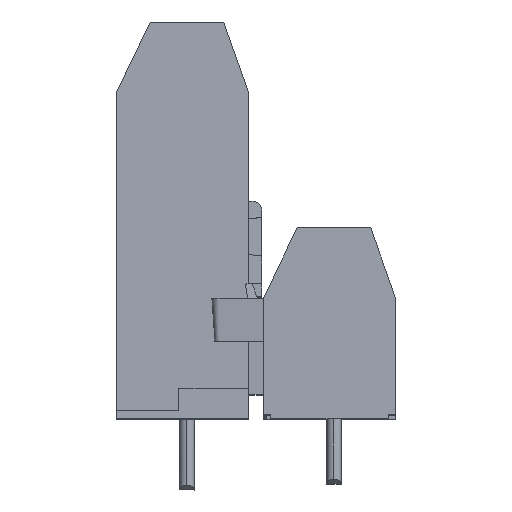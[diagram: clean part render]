
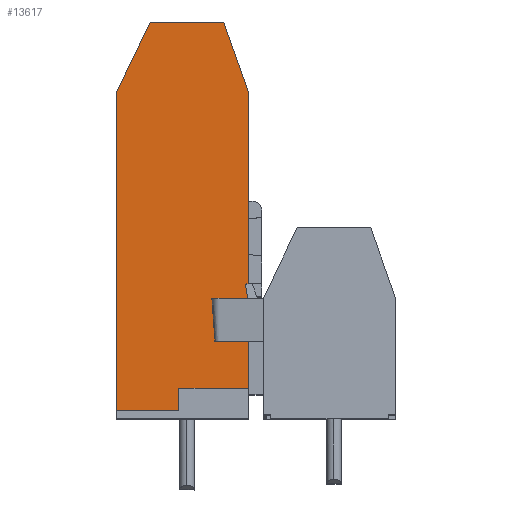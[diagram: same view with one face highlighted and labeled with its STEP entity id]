
A CAD part, top view. The second image highlights one B-rep face of the part: STEP entity #13617.
In plain terms, the highlighted planar face has unit normal (0, 0, 1).
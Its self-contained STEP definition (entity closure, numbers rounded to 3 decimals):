
#11476 = VERTEX_POINT ( 'NONE', #15899 ) ;
#11522 = EDGE_CURVE ( 'NONE', #11476, #11541, #15904, .T. ) ;
#11534 = VERTEX_POINT ( 'NONE', #15943 ) ;
#11536 = EDGE_CURVE ( 'NONE', #11534, #11476, #15940, .T. ) ;
#11541 = VERTEX_POINT ( 'NONE', #15995 ) ;
#11565 = EDGE_CURVE ( 'NONE', #11586, #11566, #16018, .T. ) ;
#11566 = VERTEX_POINT ( 'NONE', #16014 ) ;
#11576 = EDGE_CURVE ( 'NONE', #11593, #11577, #16069, .T. ) ;
#11577 = VERTEX_POINT ( 'NONE', #16062 ) ;
#11585 = EDGE_CURVE ( 'NONE', #11577, #11586, #16051, .T. ) ;
#11586 = VERTEX_POINT ( 'NONE', #16047 ) ;
#11592 = EDGE_CURVE ( 'NONE', #11541, #11593, #16104, .T. ) ;
#11593 = VERTEX_POINT ( 'NONE', #16100 ) ;
#11629 = VERTEX_POINT ( 'NONE', #16109 ) ;
#11631 = EDGE_CURVE ( 'NONE', #11629, #11534, #16107, .T. ) ;
#11892 = VERTEX_POINT ( 'NONE', #16505 ) ;
#11917 = VERTEX_POINT ( 'NONE', #16534 ) ;
#11919 = EDGE_CURVE ( 'NONE', #11917, #11892, #16532, .T. ) ;
#12460 = EDGE_CURVE ( 'NONE', #11892, #12461, #17377, .T. ) ;
#12461 = VERTEX_POINT ( 'NONE', #17376 ) ;
#12612 = VERTEX_POINT ( 'NONE', #17540 ) ;
#12669 = EDGE_CURVE ( 'NONE', #12612, #11629, #17667, .T. ) ;
#13594 = ORIENTED_EDGE ( 'NONE', *, *, #12669, .F. ) ;
#13595 = ORIENTED_EDGE ( 'NONE', *, *, #13596, .T. ) ;
#13596 = EDGE_CURVE ( 'NONE', #12612, #12461, #19308, .T. ) ;
#13597 = ORIENTED_EDGE ( 'NONE', *, *, #12460, .F. ) ;
#13598 = ORIENTED_EDGE ( 'NONE', *, *, #11919, .F. ) ;
#13599 = ORIENTED_EDGE ( 'NONE', *, *, #13600, .T. ) ;
#13600 = EDGE_CURVE ( 'NONE', #11917, #13601, #19304, .T. ) ;
#13601 = VERTEX_POINT ( 'NONE', #19358 ) ;
#13602 = ORIENTED_EDGE ( 'NONE', *, *, #13603, .T. ) ;
#13603 = EDGE_CURVE ( 'NONE', #13601, #11566, #19357, .T. ) ;
#13604 = ORIENTED_EDGE ( 'NONE', *, *, #11565, .F. ) ;
#13605 = ORIENTED_EDGE ( 'NONE', *, *, #11585, .F. ) ;
#13617 = ADVANCED_FACE ( 'NONE', ( #19334 ), #19333, .F. ) ;
#13618 = EDGE_LOOP ( 'NONE', ( #13594, #13595, #13597, #13598, #13599, #13602, #13604, #13605, #13667, #13668, #13669, #13670, #13671 ) ) ;
#13667 = ORIENTED_EDGE ( 'NONE', *, *, #11576, .F. ) ;
#13668 = ORIENTED_EDGE ( 'NONE', *, *, #11592, .F. ) ;
#13669 = ORIENTED_EDGE ( 'NONE', *, *, #11522, .F. ) ;
#13670 = ORIENTED_EDGE ( 'NONE', *, *, #11536, .F. ) ;
#13671 = ORIENTED_EDGE ( 'NONE', *, *, #11631, .F. ) ;
#14905 = CARTESIAN_POINT ( 'NONE',  ( -5.907, 8.194, -3. ) ) ;
#15670 = CARTESIAN_POINT ( 'NONE',  ( -5.855, 7.9, -3. ) ) ;
#15899 = CARTESIAN_POINT ( 'NONE',  ( -5.855, 7.9, -3. ) ) ;
#15904 = LINE ( 'NONE', #15972, #15971 ) ;
#15935 = CARTESIAN_POINT ( 'NONE',  ( -5.959, 8.488, -3. ) ) ;
#15936 = CARTESIAN_POINT ( 'NONE',  ( -6.011, 8.783, -3. ) ) ;
#15940 = B_SPLINE_CURVE_WITH_KNOTS ( 'NONE', 3,
 ( #15936, #15935, #14905, #15670 ),
 .UNSPECIFIED., .F., .F.,
 ( 4, 4 ),
 ( 0., 1. ),
 .UNSPECIFIED. ) ;
#15943 = CARTESIAN_POINT ( 'NONE',  ( -6.011, 8.783, -3. ) ) ;
#15970 = DIRECTION ( 'NONE',  ( 1., 0., 0. ) ) ;
#15971 = VECTOR ( 'NONE', #15970, 1000. ) ;
#15972 = CARTESIAN_POINT ( 'NONE',  ( -10.3, 7.9, -3. ) ) ;
#15995 = CARTESIAN_POINT ( 'NONE',  ( -5.8, 7.9, -3. ) ) ;
#16014 = CARTESIAN_POINT ( 'NONE',  ( -14.8, 0.267, -3. ) ) ;
#16015 = DIRECTION ( 'NONE',  ( -1., 0., 0. ) ) ;
#16016 = VECTOR ( 'NONE', #16015, 1000. ) ;
#16017 = CARTESIAN_POINT ( 'NONE',  ( -10.3, 0.267, -3. ) ) ;
#16018 = LINE ( 'NONE', #16017, #16016 ) ;
#16047 = CARTESIAN_POINT ( 'NONE',  ( -10.55, 0.267, -3. ) ) ;
#16048 = DIRECTION ( 'NONE',  ( 0., -1., 0. ) ) ;
#16049 = VECTOR ( 'NONE', #16048, 1000. ) ;
#16050 = CARTESIAN_POINT ( 'NONE',  ( -10.55, 13.484, -3. ) ) ;
#16051 = LINE ( 'NONE', #16050, #16049 ) ;
#16062 = CARTESIAN_POINT ( 'NONE',  ( -10.55, 1.8, -3. ) ) ;
#16063 = DIRECTION ( 'NONE',  ( -1., 0., 0. ) ) ;
#16064 = VECTOR ( 'NONE', #16063, 1000. ) ;
#16065 = CARTESIAN_POINT ( 'NONE',  ( -10.3, 1.8, -3. ) ) ;
#16069 = LINE ( 'NONE', #16065, #16064 ) ;
#16100 = CARTESIAN_POINT ( 'NONE',  ( -5.8, 1.8, -3. ) ) ;
#16101 = DIRECTION ( 'NONE',  ( 0., -1., 0. ) ) ;
#16102 = VECTOR ( 'NONE', #16101, 1000. ) ;
#16103 = CARTESIAN_POINT ( 'NONE',  ( -5.8, 13.484, -3. ) ) ;
#16104 = LINE ( 'NONE', #16103, #16102 ) ;
#16107 = B_SPLINE_CURVE_WITH_KNOTS ( 'NONE', 3,
 ( #16161, #16160, #16159, #16158, #16157, #16156 ),
 .UNSPECIFIED., .F., .F.,
 ( 4, 2, 4 ),
 ( 0., 0.5, 1. ),
 .UNSPECIFIED. ) ;
#16109 = CARTESIAN_POINT ( 'NONE',  ( -5.912, 8.9, -3. ) ) ;
#16156 = CARTESIAN_POINT ( 'NONE',  ( -6.011, 8.783, -3. ) ) ;
#16157 = CARTESIAN_POINT ( 'NONE',  ( -6.016, 8.811, -3. ) ) ;
#16158 = CARTESIAN_POINT ( 'NONE',  ( -6.007, 8.842, -3. ) ) ;
#16159 = CARTESIAN_POINT ( 'NONE',  ( -5.97, 8.887, -3. ) ) ;
#16160 = CARTESIAN_POINT ( 'NONE',  ( -5.941, 8.9, -3. ) ) ;
#16161 = CARTESIAN_POINT ( 'NONE',  ( -5.912, 8.9, -3. ) ) ;
#16505 = CARTESIAN_POINT ( 'NONE',  ( -7.5, 26.7, -3. ) ) ;
#16529 = DIRECTION ( 'NONE',  ( 1., 0., 0. ) ) ;
#16530 = VECTOR ( 'NONE', #16529, 1000. ) ;
#16531 = CARTESIAN_POINT ( 'NONE',  ( -10.3, 26.7, -3. ) ) ;
#16532 = LINE ( 'NONE', #16531, #16530 ) ;
#16534 = CARTESIAN_POINT ( 'NONE',  ( -12.5, 26.7, -3. ) ) ;
#17372 = CARTESIAN_POINT ( 'NONE',  ( -5.8, 21.9, -3. ) ) ;
#17373 = CARTESIAN_POINT ( 'NONE',  ( -6.367, 23.5, -3. ) ) ;
#17374 = CARTESIAN_POINT ( 'NONE',  ( -6.933, 25.1, -3. ) ) ;
#17375 = CARTESIAN_POINT ( 'NONE',  ( -7.5, 26.7, -3. ) ) ;
#17376 = CARTESIAN_POINT ( 'NONE',  ( -5.8, 21.9, -3. ) ) ;
#17377 = B_SPLINE_CURVE_WITH_KNOTS ( 'NONE', 3,
 ( #17375, #17374, #17373, #17372 ),
 .UNSPECIFIED., .F., .F.,
 ( 4, 4 ),
 ( 0., 1. ),
 .UNSPECIFIED. ) ;
#17540 = CARTESIAN_POINT ( 'NONE',  ( -5.8, 8.9, -3. ) ) ;
#17664 = DIRECTION ( 'NONE',  ( -1., 0., 0. ) ) ;
#17665 = VECTOR ( 'NONE', #17664, 1000. ) ;
#17666 = CARTESIAN_POINT ( 'NONE',  ( -10.3, 8.9, -3. ) ) ;
#17667 = LINE ( 'NONE', #17666, #17665 ) ;
#19304 = LINE ( 'NONE', #19361, #19360 ) ;
#19305 = DIRECTION ( 'NONE',  ( 0., 1., 0. ) ) ;
#19306 = VECTOR ( 'NONE', #19305, 1000. ) ;
#19307 = CARTESIAN_POINT ( 'NONE',  ( -5.8, 11.85, -3. ) ) ;
#19308 = LINE ( 'NONE', #19307, #19306 ) ;
#19329 = DIRECTION ( 'NONE',  ( -1., 0., 0. ) ) ;
#19330 = DIRECTION ( 'NONE',  ( 0., 0., -1. ) ) ;
#19331 = CARTESIAN_POINT ( 'NONE',  ( -5.8, 0.267, -3. ) ) ;
#19332 = AXIS2_PLACEMENT_3D ( 'NONE', #19331, #19330, #19329 ) ;
#19333 = PLANE ( 'NONE',  #19332 ) ;
#19334 = FACE_OUTER_BOUND ( 'NONE', #13618, .T. ) ;
#19354 = DIRECTION ( 'NONE',  ( 0., -1., 0. ) ) ;
#19355 = VECTOR ( 'NONE', #19354, 1000. ) ;
#19356 = CARTESIAN_POINT ( 'NONE',  ( -14.8, 10.8, -3. ) ) ;
#19357 = LINE ( 'NONE', #19356, #19355 ) ;
#19358 = CARTESIAN_POINT ( 'NONE',  ( -14.8, 21.9, -3. ) ) ;
#19359 = DIRECTION ( 'NONE',  ( -0.432, -0.902, 0. ) ) ;
#19360 = VECTOR ( 'NONE', #19359, 1000. ) ;
#19361 = CARTESIAN_POINT ( 'NONE',  ( -13.65, 24.3, -3. ) ) ;
